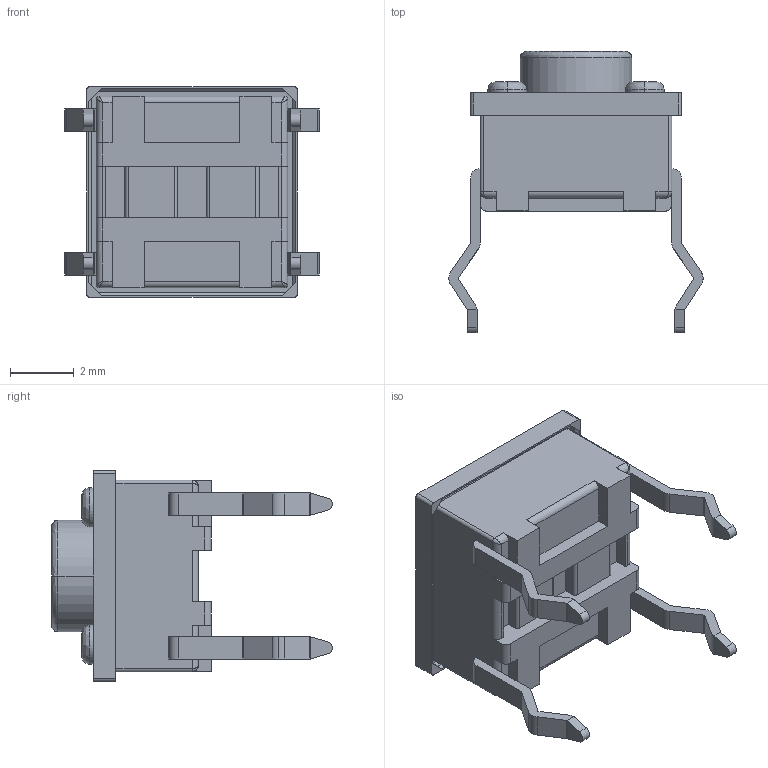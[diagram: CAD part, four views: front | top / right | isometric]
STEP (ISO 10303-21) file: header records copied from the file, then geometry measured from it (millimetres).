
FILE_DESCRIPTION (( 'STEP AP214' ), '1' );
FILE_NAME ('SKQJAA.STEP', '2013-01-22T06:51:38', ( 'Suzuki Kiyoshi' ), ( 'ａｌｐｓ' ), 'SwSTEP 2.0', 'SolidWorks 2010', '' );
FILE_SCHEMA (( 'AUTOMOTIVE_DESIGN' ));
Length unit declared in the file: millimetre
Products named in the file (1): SKQJAA
Bounding box: 7.96 x 8.8 x 6.6 mm (x, y, z)
Volume: 144.1 mm3; surface area: 275.2 mm2
Topology: 1 solids, 5 shells, 264 faces, 694 edges, 442 vertices
Faces by surface type: plane 140, cylinder 106, bspline 18
Entity records: 11350 total; most frequent: CARTESIAN_POINT 1937, ORIENTED_EDGE 1372, DIRECTION 1340, EDGE_CURVE 686, AXIS2_PLACEMENT_3D 453, VERTEX_POINT 442, VECTOR 434, LINE 434
